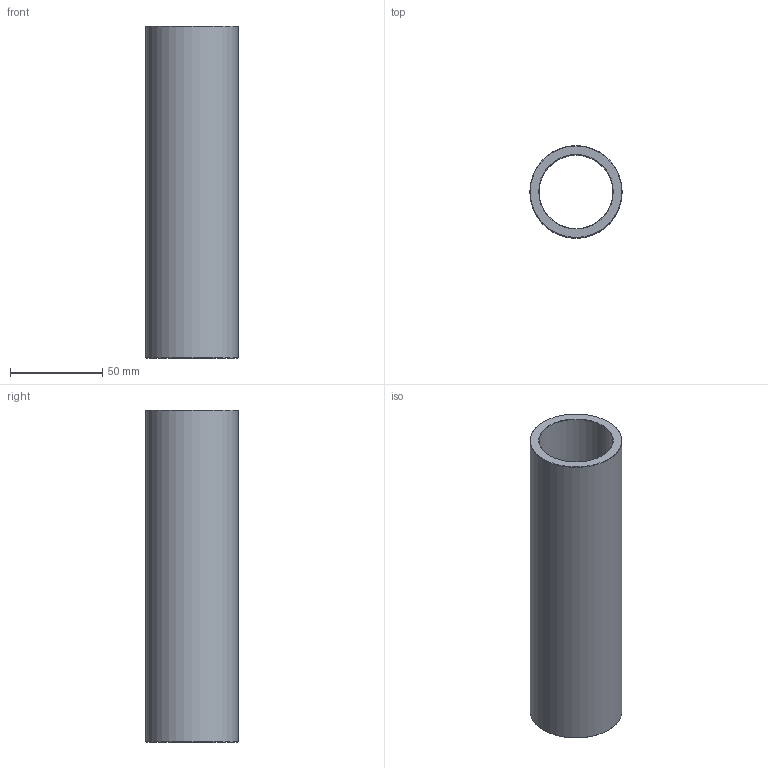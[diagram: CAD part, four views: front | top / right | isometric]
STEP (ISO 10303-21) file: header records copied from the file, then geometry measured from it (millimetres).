
FILE_DESCRIPTION(('STEP AP203'),'1');
FILE_NAME('C:/Users/Rodrigo/Desktop/GA5.040.180-1.step','2016-11-07T18:41:03',(' '),(' '),'Spatial InterOp 3D',' ',' ');
FILE_SCHEMA(('CONFIG_CONTROL_DESIGN'));
Length unit declared in the file: millimetre
Products named in the file (1): 1
Bounding box: 50 x 50 x 180 mm (x, y, z)
Volume: 127223.2 mm3; surface area: 52241.3 mm2
Topology: 1 solids, 1 shells, 8 faces, 14 edges, 8 vertices
Faces by surface type: cone 4, cylinder 2, plane 2
Full cylindrical faces by diameter (mm): 40 x1, 50 x1
Entity records: 212 total; most frequent: DIRECTION 34, CARTESIAN_POINT 25, AXIS2_PLACEMENT_3D 17, EDGE_LOOP 16, ORIENTED_EDGE 16, FACE_OUTER_BOUND 10, ADVANCED_FACE 8, EDGE_CURVE 8
